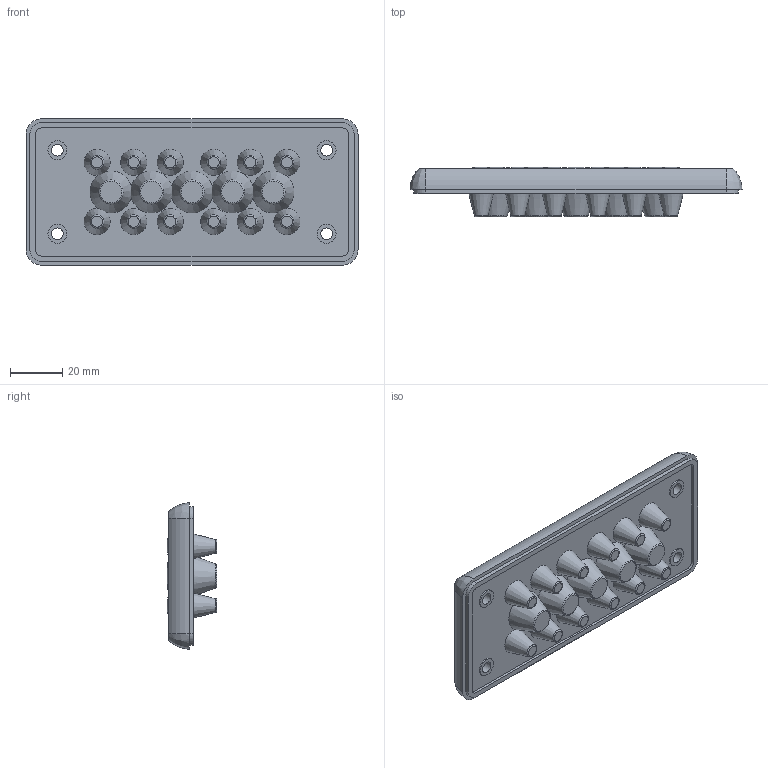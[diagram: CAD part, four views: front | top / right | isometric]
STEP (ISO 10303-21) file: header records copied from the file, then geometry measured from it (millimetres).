
FILE_DESCRIPTION( ( 'STEP AP214' ), '1' );
FILE_NAME( 'p:/temp/worker_18/temp/exporttempdir_2876_209_3SxGk/format_0/107295 MH-16 F17-1.stp', '2021-05-11T07:45:37', ( 'License CC BY-ND 4.0' ), ( 'CADENAS' ), ' ', 'PARTsolutions', ' ' );
FILE_SCHEMA( ( 'AUTOMOTIVE_DESIGN { 1 0 10303 214 1 1 1 1 }' ) );
Length unit declared in the file: millimetre
Products named in the file (1): _107295 MH-16 F17-1
Bounding box: 127 x 19 x 56 mm (x, y, z)
Volume: 68911.9 mm3; surface area: 21075.2 mm2
Topology: 1 solids, 1 shells, 145 faces, 321 edges, 214 vertices
Faces by surface type: plane 58, cone 38, cylinder 24, torus 21, bspline 4
Full cylindrical faces by diameter (mm): 4.5 x4, 7.2 x4
Entity records: 4718 total; most frequent: CARTESIAN_POINT 702, DIRECTION 648, ORIENTED_EDGE 432, AXIS2_PLACEMENT_3D 298, EDGE_LOOP 256, EDGE_CURVE 216, VERTEX_POINT 176, FACE_OUTER_BOUND 174
